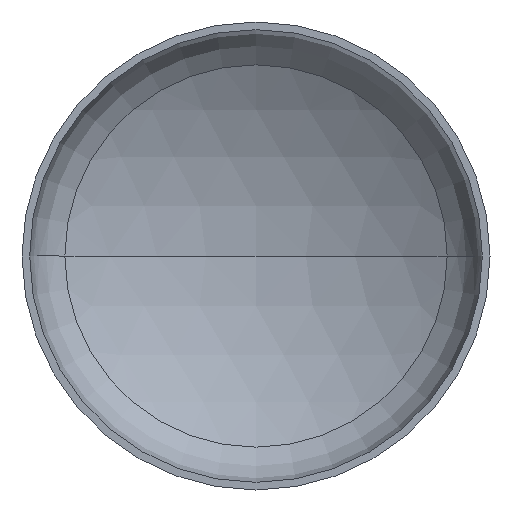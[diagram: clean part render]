
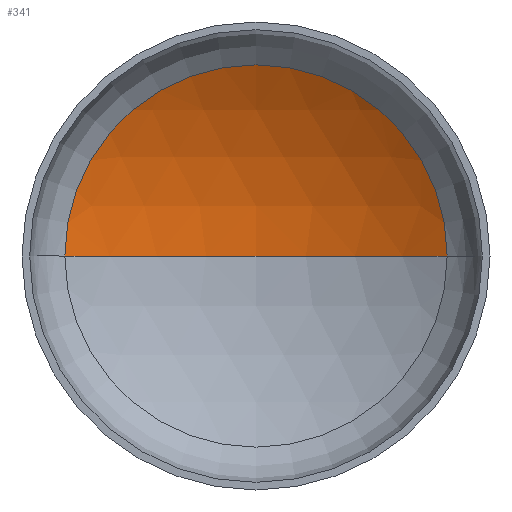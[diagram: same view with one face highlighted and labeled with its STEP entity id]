
A CAD part, front view. The second image highlights one B-rep face of the part: STEP entity #341.
In plain terms, the highlighted spherical face has radius 4400 mm.
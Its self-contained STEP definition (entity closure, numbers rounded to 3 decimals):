
#6 = VERTEX_POINT ( 'NONE', #387 ) ;
#8 = EDGE_LOOP ( 'NONE', ( #10, #116, #72 ) ) ;
#10 = ORIENTED_EDGE ( 'NONE', *, *, #142, .F. ) ;
#16 = CIRCLE ( 'NONE', #155, 4400. ) ;
#66 = FACE_OUTER_BOUND ( 'NONE', #8, .T. ) ;
#70 = DIRECTION ( 'NONE',  ( 1., 0., 0. ) ) ;
#72 = ORIENTED_EDGE ( 'NONE', *, *, #200, .T. ) ;
#76 = VERTEX_POINT ( 'NONE', #377 ) ;
#81 = DIRECTION ( 'NONE',  ( 0., 0., 1. ) ) ;
#116 = ORIENTED_EDGE ( 'NONE', *, *, #182, .T. ) ;
#140 = CIRCLE ( 'NONE', #213, 4400. ) ;
#142 = EDGE_CURVE ( 'NONE', #76, #6, #16, .T. ) ;
#145 = AXIS2_PLACEMENT_3D ( 'NONE', #173, #286, #279 ) ;
#155 = AXIS2_PLACEMENT_3D ( 'NONE', #373, #81, #70 ) ;
#169 = SPHERICAL_SURFACE ( 'NONE', #145, 4400. ) ;
#173 = CARTESIAN_POINT ( 'NONE',  ( 0., -2956.763, 0. ) ) ;
#182 = EDGE_CURVE ( 'NONE', #76, #250, #140, .T. ) ;
#189 = CARTESIAN_POINT ( 'NONE',  ( 2246.414, 826.572, 0. ) ) ;
#200 = EDGE_CURVE ( 'NONE', #250, #6, #400, .T. ) ;
#213 = AXIS2_PLACEMENT_3D ( 'NONE', #328, #327, #322 ) ;
#250 = VERTEX_POINT ( 'NONE', #189 ) ;
#252 = AXIS2_PLACEMENT_3D ( 'NONE', #319, #318, #317 ) ;
#279 = DIRECTION ( 'NONE',  ( -1., 0., 0. ) ) ;
#286 = DIRECTION ( 'NONE',  ( 0., 0., -1. ) ) ;
#317 = DIRECTION ( 'NONE',  ( 1., 0., 0. ) ) ;
#318 = DIRECTION ( 'NONE',  ( 0., -1., 0. ) ) ;
#319 = CARTESIAN_POINT ( 'NONE',  ( 0., 826.572, 0. ) ) ;
#322 = DIRECTION ( 'NONE',  ( -1., 0., 0. ) ) ;
#327 = DIRECTION ( 'NONE',  ( 0., 0., -1. ) ) ;
#328 = CARTESIAN_POINT ( 'NONE',  ( 0., -2956.763, 0. ) ) ;
#341 = ADVANCED_FACE ( 'NONE', ( #66 ), #169, .F. ) ;
#373 = CARTESIAN_POINT ( 'NONE',  ( 0., -2956.763, 0. ) ) ;
#377 = CARTESIAN_POINT ( 'NONE',  ( 0., 1443.237, 0. ) ) ;
#387 = CARTESIAN_POINT ( 'NONE',  ( -2246.414, 826.572, 0. ) ) ;
#400 = CIRCLE ( 'NONE', #252, 2246.414 ) ;
